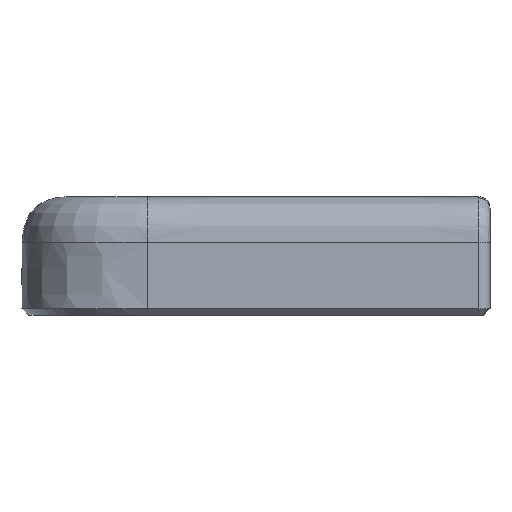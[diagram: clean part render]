
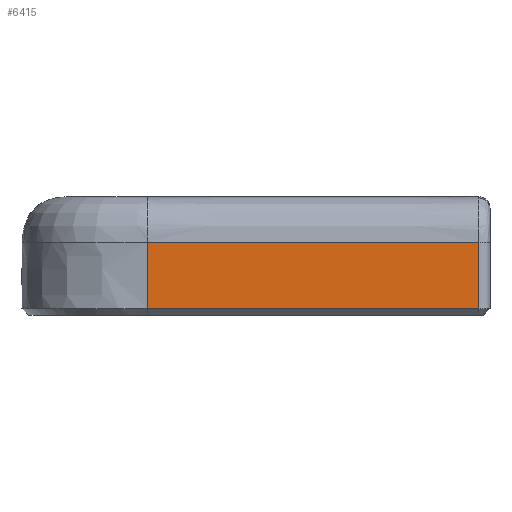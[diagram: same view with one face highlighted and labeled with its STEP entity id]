
A CAD part, left-side view. The second image highlights one B-rep face of the part: STEP entity #6415.
In plain terms, the highlighted planar face has unit normal (-1, 0, 0).
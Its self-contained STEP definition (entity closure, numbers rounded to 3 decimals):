
#4969=CARTESIAN_POINT('Control Point',(-23.,12.,0.6)) ;
#4970=CARTESIAN_POINT('Control Point',(-23.,12.,1.76)) ;
#4971=CARTESIAN_POINT('Control Point',(-23.,12.,2.92)) ;
#4972=CARTESIAN_POINT('Control Point',(-23.,12.,4.08)) ;
#4973=CARTESIAN_POINT('Control Point',(-23.,12.,5.24)) ;
#4974=CARTESIAN_POINT('Control Point',(-23.,12.,6.4)) ;
#4975=CARTESIAN_POINT('Vertex',(-23.,12.,6.4)) ;
#4977=CARTESIAN_POINT('Vertex',(-23.,12.,0.6)) ;
#5562=CARTESIAN_POINT('Vertex',(-23.,-17.,6.4)) ;
#5565=CARTESIAN_POINT('Line Origine',(-23.,-17.,-1.129)) ;
#5569=CARTESIAN_POINT('Vertex',(-23.,-17.,0.6)) ;
#6385=CARTESIAN_POINT('Control Point',(-23.,-17.,6.4)) ;
#6386=CARTESIAN_POINT('Control Point',(-23.,-11.2,6.4)) ;
#6387=CARTESIAN_POINT('Control Point',(-23.,-5.4,6.4)) ;
#6388=CARTESIAN_POINT('Control Point',(-23.,0.4,6.4)) ;
#6389=CARTESIAN_POINT('Control Point',(-23.,6.2,6.4)) ;
#6390=CARTESIAN_POINT('Control Point',(-23.,12.,6.4)) ;
#6399=CARTESIAN_POINT('Axis2P3D Location',(-23.,0.,5.2)) ;
#6404=CARTESIAN_POINT('Line Origine',(-23.,-2.5,0.6)) ;
#5566=DIRECTION('Vector Direction',(0.,0.,1.)) ;
#6400=DIRECTION('Axis2P3D Direction',(1.,0.,0.)) ;
#6401=DIRECTION('Axis2P3D XDirection',(0.,1.,0.)) ;
#6405=DIRECTION('Vector Direction',(0.,1.,0.)) ;
#6402=AXIS2_PLACEMENT_3D('Plane Axis2P3D',#6399,#6400,#6401) ;
#6410=ORIENTED_EDGE('',*,*,#6408,.F.) ;
#6411=ORIENTED_EDGE('',*,*,#5571,.T.) ;
#6412=ORIENTED_EDGE('',*,*,#6391,.T.) ;
#6413=ORIENTED_EDGE('',*,*,#4979,.T.) ;
#5567=VECTOR('Line Direction',#5566,1.) ;
#6406=VECTOR('Line Direction',#6405,1.) ;
#6415=ADVANCED_FACE('drzak_na_fotak_4',(#6414),#6403,.F.) ;
#4979=EDGE_CURVE('',#4976,#4978,#4968,.F.) ;
#5571=EDGE_CURVE('',#5570,#5563,#5568,.T.) ;
#6391=EDGE_CURVE('',#5563,#4976,#6384,.T.) ;
#6408=EDGE_CURVE('',#5570,#4978,#6407,.T.) ;
#6409=EDGE_LOOP('',(#6410,#6411,#6412,#6413)) ;
#6414=FACE_OUTER_BOUND('',#6409,.T.) ;
#5568=LINE('Line',#5565,#5567) ;
#6407=LINE('Line',#6404,#6406) ;
#6403=PLANE('Plane',#6402) ;
#4976=VERTEX_POINT('',#4975) ;
#4978=VERTEX_POINT('',#4977) ;
#5563=VERTEX_POINT('',#5562) ;
#5570=VERTEX_POINT('',#5569) ;
#4968=(BOUNDED_CURVE()B_SPLINE_CURVE(5,(#4969,#4970,#4971,#4972,#4973,#4974),.UNSPECIFIED.,.F.,.U.)B_SPLINE_CURVE_WITH_KNOTS((6,6),(9.881,18.083),.UNSPECIFIED.)CURVE()GEOMETRIC_REPRESENTATION_ITEM()RATIONAL_B_SPLINE_CURVE((1.,1.,1.,1.,1.,1.))REPRESENTATION_ITEM('')) ;
#6384=(BOUNDED_CURVE()B_SPLINE_CURVE(5,(#6385,#6386,#6387,#6388,#6389,#6390),.UNSPECIFIED.,.F.,.U.)B_SPLINE_CURVE_WITH_KNOTS((6,6),(12.982,53.995),.UNSPECIFIED.)CURVE()GEOMETRIC_REPRESENTATION_ITEM()RATIONAL_B_SPLINE_CURVE((1.,1.,1.,1.,1.,1.))REPRESENTATION_ITEM('')) ;
